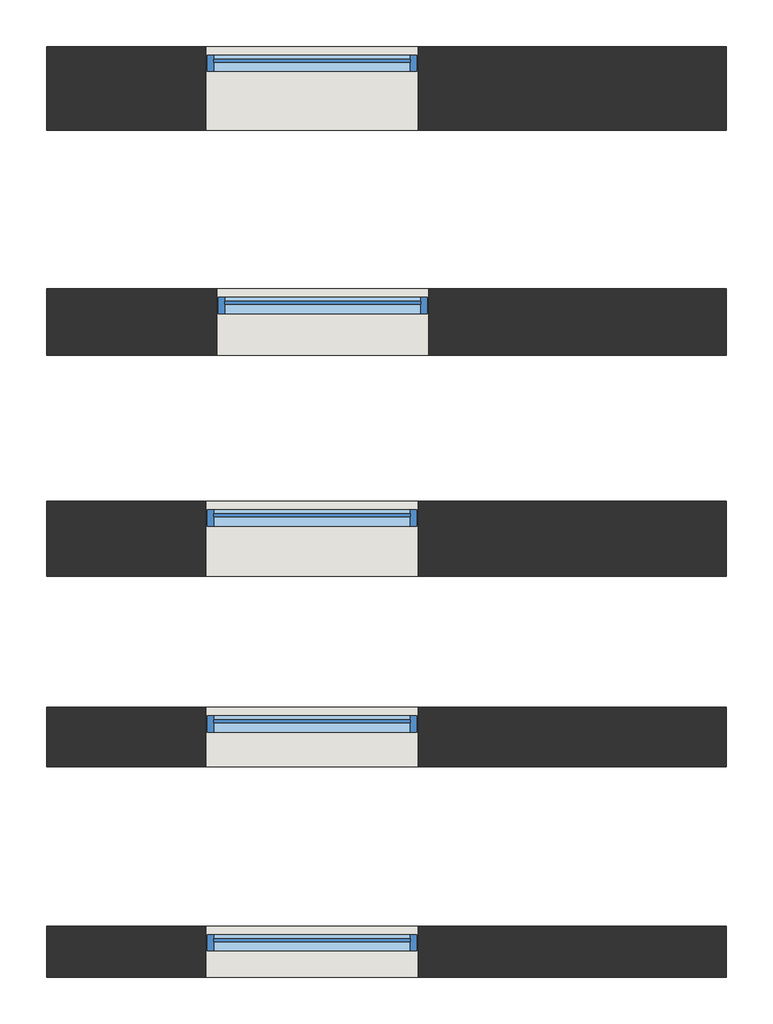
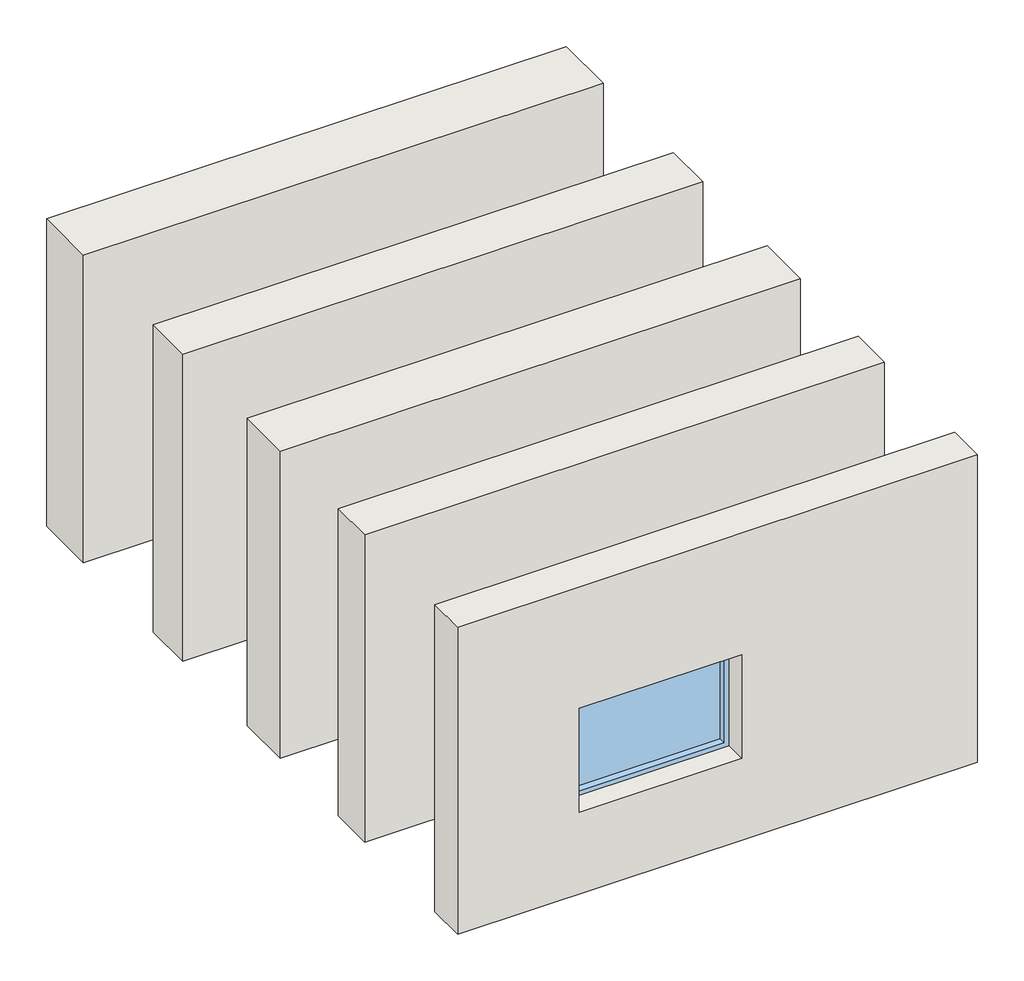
# One storey: 5 walls, 5 windows.
"""IFC4 building model written with IfcOpenShell, lengths in millimetres."""

from ifc_helpers import new_model, si_unit, frame, origin, place, context, project, spatial, polyline, outline, extrude, transform, mapped, element, save
from components import window_1500x1012_mm_b6c589c8, window_1500x1012_mm_c2383a84, window_1500x1012_mm_fe9c3283, window_1500x1012_mm_38aa6ed5, window_1500x1012_mm_2e799f6e

model = new_model("IFC4")

# Units and contexts
model_context = context("Model", 3, world=origin())
ifc_project = project(units=[si_unit("LENGTHUNIT", "METRE", prefix="MILLI")], contexts=[model_context])

# Site, building, storey
site = spatial("IfcSite", under=ifc_project)
building = spatial("IfcBuilding", under=site)
storey = spatial("IfcBuildingStorey", under=building, Name="02 Stue, terræn", Elevation=0.0)

# Walls
placement = place(None, origin())
element("IfcWall", 1, ObjectType="Ext - 468 mm Concrete/Brick - 120/240/108", at=placement, inside=storey, context=model_context, shape_type="SweptSolid", body=[
    extrude(outline(polyline([(0.0, -14011.8572651), (0.0, -9211.8572651), (3000.0, -9211.8572651), (3000.0, -14011.8572651), (0.0, -14011.8572651)]), holes=[polyline([(800.0, -11311.8572651), (800.0, -12811.8572651), (1812.0, -12811.8572651), (1812.0, -11311.8572651), (800.0, -11311.8572651)])]), frame((0.0, 8779.1125625, 0.0), z_axis=(0.0, 1.0, 0.0), x_axis=(0.0, 0.0, 1.0)), (0.0, 0.0, 1.0), 468.0),
])
element("IfcWall", 2, ObjectType="Ext - 530mm Sandwich / LW Concrete - 200/250/80", at=placement, inside=storey, context=model_context, shape_type="SweptSolid", body=[
    extrude(outline(polyline([(0.0, -14011.8572651), (0.0, -9211.8572651), (3000.0, -9211.8572651), (3000.0, -14011.8572651), (0.0, -14011.8572651)]), holes=[polyline([(800.0, -12887.8572651), (1812.0, -12887.8572651), (1812.0, -11387.8572651), (800.0, -11387.8572651), (800.0, -12887.8572651)])]), frame((0.0, 7217.1125625, 0.0), z_axis=(0.0, 1.0, 0.0), x_axis=(0.0, 0.0, 1.0)), (0.0, 0.0, 1.0), 530.0),
])
element("IfcWall", 3, ObjectType="Ext - 360  mm  Wood Siding / LW Concrete let ydervæg", at=placement, inside=storey, context=model_context, shape_type="SweptSolid", body=[
    extrude(outline(polyline([(0.0, -14011.8572651), (0.0, -9211.8572651), (3000.0, -9211.8572651), (3000.0, -14011.8572651), (0.0, -14011.8572651)]), holes=[polyline([(800.0, -12887.8572651), (1812.0, -12887.8572651), (1812.0, -11387.8572651), (800.0, -11387.8572651), (800.0, -12887.8572651)])]), frame((0.0, 4385.1125625, 0.0), z_axis=(0.0, 1.0, 0.0), x_axis=(0.0, 0.0, 1.0)), (0.0, 0.0, 1.0), 362.0),
])
element("IfcWall", 4, ObjectType="Ext - 590 mm Concrete/Brick - 120/362/108", at=placement, inside=storey, context=model_context, shape_type="SweptSolid", body=[
    extrude(outline(polyline([(0.0, -14011.8572651), (0.0, -9211.8572651), (3000.0, -9211.8572651), (3000.0, -14011.8572651), (0.0, -14011.8572651)]), holes=[polyline([(800.0, -11387.8572651), (800.0, -12887.8572651), (1812.0, -12887.8572651), (1812.0, -11387.8572651), (800.0, -11387.8572651)])]), frame((0.0, 10367.1125625, 0.0), z_axis=(0.0, 1.0, 0.0), x_axis=(0.0, 0.0, 1.0)), (0.0, 0.0, 1.0), 590.0),
])
element("IfcWall", 5, ObjectType="Ext - 420mm Sandwich / LW Concrete - 150/200/70", at=placement, inside=storey, context=model_context, shape_type="SweptSolid", body=[
    extrude(outline(polyline([(0.0, -14011.8572651), (0.0, -9211.8572651), (3000.0, -9211.8572651), (3000.0, -14011.8572651), (0.0, -14011.8572651)]), holes=[polyline([(800.0, -12887.8572651), (1812.0, -12887.8572651), (1812.0, -11387.8572651), (800.0, -11387.8572651), (800.0, -12887.8572651)])]), frame((0.0, 5872.1125625, 0.0), z_axis=(0.0, 1.0, 0.0), x_axis=(0.0, 0.0, 1.0)), (0.0, 0.0, 1.0), 420.0),
])

# Windows
window_1500x1012_mm_shape = window_1500x1012_mm_b6c589c8(model_context)
element("IfcWindow", 6, ObjectType="V_BS-Fals Beton-Tegl 468mm : 1500x1012 mm", at=placement, inside=storey, context=model_context, shape_type="MappedRepresentation", body=[
    mapped(window_1500x1012_mm_shape, transform((-12073.8572651, 9013.1125625, 200.0), x_axis=(-1.0, 0.0, 0.0), y_axis=(0.0, -1.0, 0.0), z_axis=(0.0, 0.0, 1.0))),
])
window_1500x1012_mm_2_shape = window_1500x1012_mm_c2383a84(model_context)
element("IfcWindow", 7, ObjectType="V_BS-Fals_Beton-Let_420mm : 1500x1012 mm", at=placement, inside=storey, context=model_context, shape_type="MappedRepresentation", body=[
    mapped(window_1500x1012_mm_2_shape, transform((-12125.8572651, 4566.1125625, 200.0), x_axis=(1.0, 0.0, 0.0), y_axis=(0.0, 1.0, 0.0), z_axis=(0.0, 0.0, 1.0))),
])
window_1500x1012_mm_3_shape = window_1500x1012_mm_fe9c3283(model_context)
element("IfcWindow", 8, ObjectType="V_BS-Fals Beton-Tegl 590mm : 1500x1012 mm", at=placement, inside=storey, context=model_context, shape_type="MappedRepresentation", body=[
    mapped(window_1500x1012_mm_3_shape, transform((-12149.8572651, 10662.1125625, 200.0), x_axis=(-1.0, 0.0, 0.0), y_axis=(0.0, -1.0, 0.0), z_axis=(0.0, 0.0, 1.0))),
])
window_1500x1012_mm_4_shape = window_1500x1012_mm_38aa6ed5(model_context)
element("IfcWindow", 9, ObjectType="V_BS-Fals_Sandwich_530mm : 1500x1012 mm", at=placement, inside=storey, context=model_context, shape_type="MappedRepresentation", body=[
    mapped(window_1500x1012_mm_4_shape, transform((-12125.8572651, 7482.1125625, 200.0), x_axis=(1.0, 0.0, 0.0), y_axis=(0.0, 1.0, 0.0), z_axis=(0.0, 0.0, 1.0))),
])
window_1500x1012_mm_5_shape = window_1500x1012_mm_2e799f6e(model_context)
element("IfcWindow", 10, ObjectType="V_BS-Fals_Sandwich_420mm : 1500x1012 mm", at=placement, inside=storey, context=model_context, shape_type="MappedRepresentation", body=[
    mapped(window_1500x1012_mm_5_shape, transform((-12125.8572651, 6082.1125625, 200.0), x_axis=(1.0, 0.0, 0.0), y_axis=(0.0, 1.0, 0.0), z_axis=(0.0, 0.0, 1.0))),
])

save(model, "model.ifc")
